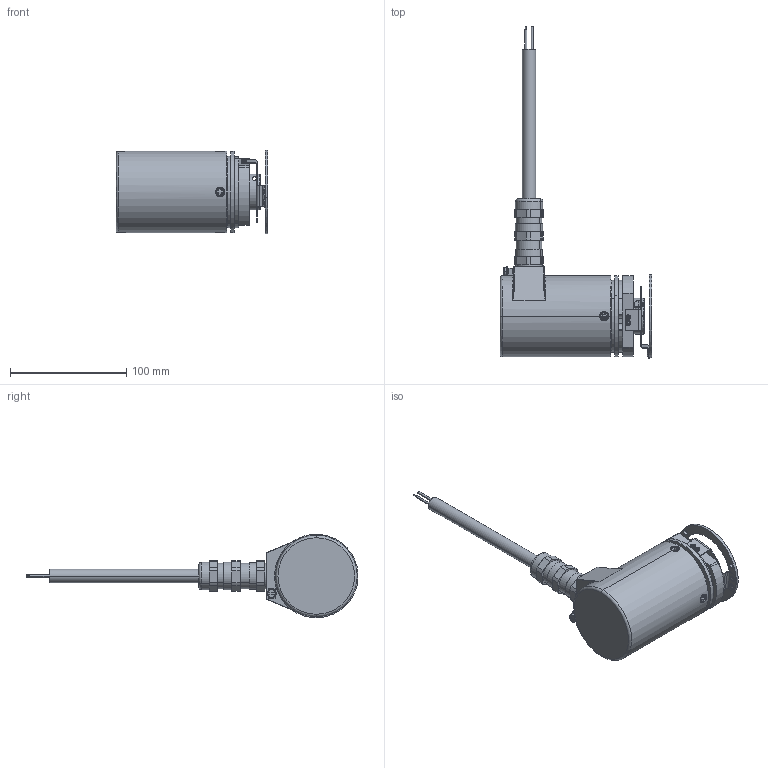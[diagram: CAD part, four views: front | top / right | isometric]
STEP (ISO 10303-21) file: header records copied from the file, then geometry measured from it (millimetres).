
FILE_DESCRIPTION (( 'STEP AP214' ), '1' );
FILE_NAME ('8.7020.51x2.xxxx.STEP', '2015-04-27T06:36:34', ( 'admin' ), ( 'Microsoft' ), 'SwSTEP 2.0', 'SolidWorks 2013', '' );
FILE_SCHEMA (( 'AUTOMOTIVE_DESIGN' ));
Length unit declared in the file: millimetre
Products named in the file (1): 8.7020.51x2.xxxx
Bounding box: 130.9 x 286.17 x 71.93 mm (x, y, z)
Surface area: 66163.1 mm2 (no closed solid volume)
Topology: 0 solids, 38 shells, 403 faces, 1194 edges, 825 vertices
Faces by surface type: cylinder 168, plane 163, cone 41, torus 23, bspline 4, sphere 4
Entity records: 19507 total; most frequent: CARTESIAN_POINT 4131, DIRECTION 2394, ORIENTED_EDGE 2010, EDGE_CURVE 1190, AXIS2_PLACEMENT_3D 904, VERTEX_POINT 825, VECTOR 586, LINE 586
